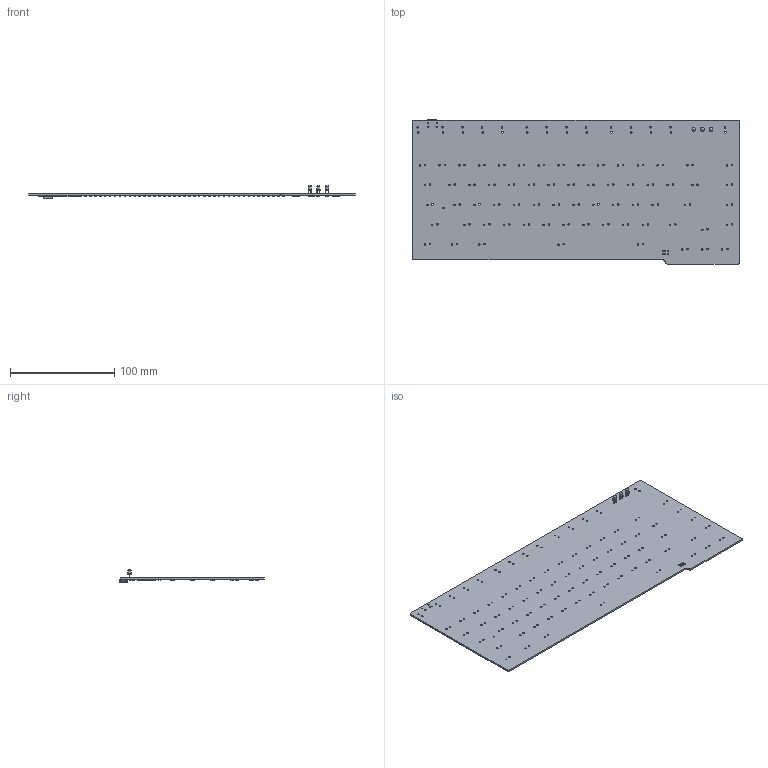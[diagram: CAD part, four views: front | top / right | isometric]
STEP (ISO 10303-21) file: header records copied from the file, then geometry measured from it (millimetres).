
FILE_DESCRIPTION(('KiCad electronic assembly'),'2;1');
FILE_NAME('AEK75USBC.step','2020-06-08T19:01:14',('An Author'),( 'A Company'),'Open CASCADE STEP processor 6.9', 'KiCad to STEP converter','Unknown');
FILE_SCHEMA(('AUTOMOTIVE_DESIGN { 1 0 10303 214 1 1 1 1 }'));
Length unit declared in the file: millimetre
Products named in the file (22): Open CASCADE STEP translator 6.9 1; LED_D3.0mm; SOLID; TQFP-44_10x10mm_P0.8mm; Crystal_NDK_NX2520SA; D_SOD-123; C_0805_2012Metric; D_1206_3216Metric; R_0805_2012Metric; SOD-123FL; USON-10_2.5x1.0mm_P0.5mm; HRO__TYPE-C-31-M-12; COMPOUND
Assembly tree (114 placements, depth 3):
  Open CASCADE STEP translator 6.9 1
    LED_D3.0mm  x3
      SOLID
    TQFP-44_10x10mm_P0.8mm
      SOLID
    Crystal_NDK_NX2520SA
      SOLID
    D_SOD-123  x80
      SOLID
    C_0805_2012Metric  x7
      SOLID
    D_1206_3216Metric
      SOLID
    R_0805_2012Metric  x7
      SOLID
    SOD-123FL
      SOLID
    USON-10_2.5x1.0mm_P0.5mm
      SOLID
    HRO__TYPE-C-31-M-12
      SOLID
    COMPOUND
Bounding box: 314.27 x 138.65 x 13.21 mm (x, y, z)
Volume: 68226.5 mm3; surface area: 89882.9 mm2
Topology: 104 solids, 104 shells, 7064 faces, 17048 edges, 10286 vertices
Faces by surface type: plane 3619, bspline 2176, cylinder 1256, cone 10, sphere 3
Full cylindrical faces by diameter (mm): 0.2 x1, 0.5 x5, 0.65 x2, 0.9 x6, 1.016 x6, 1.47 x160, 3 x3
Entity records: 116905 total; most frequent: CARTESIAN_POINT 31921, DIRECTION 14438, LINE 8941, VECTOR 8941, ORIENTED_EDGE 7598, PCURVE 7598, DEFINITIONAL_REPRESENTATION 7598, EDGE_CURVE 3799
